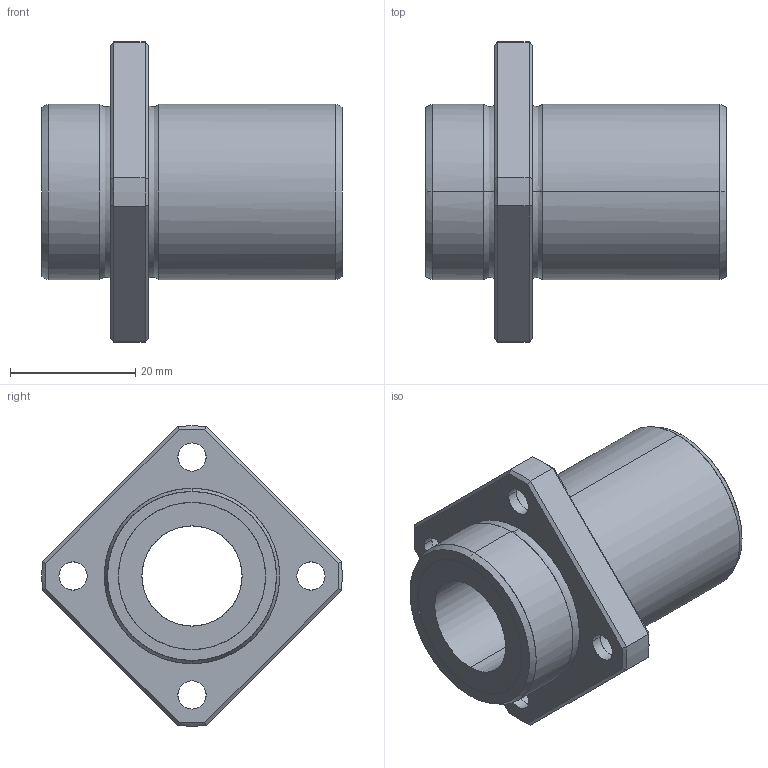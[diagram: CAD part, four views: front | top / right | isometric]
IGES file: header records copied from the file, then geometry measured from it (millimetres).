
Global section: file name: No Iges File Name specified; native system: AutoDesk Inventor R11.0; preprocessor: AutoDesk Inventor Iges Exporter R11.0; author: No Author specified; organization: No Organization specified; date: 20170921.133415; units: millimetre
Bounding box: 48 x 48 x 48 mm (x, y, z)
Surface area: 9558 mm2 (no closed solid volume)
Topology: 0 solids, 0 shells, 69 faces, 424 edges, 424 vertices
Faces by surface type: bspline 69
